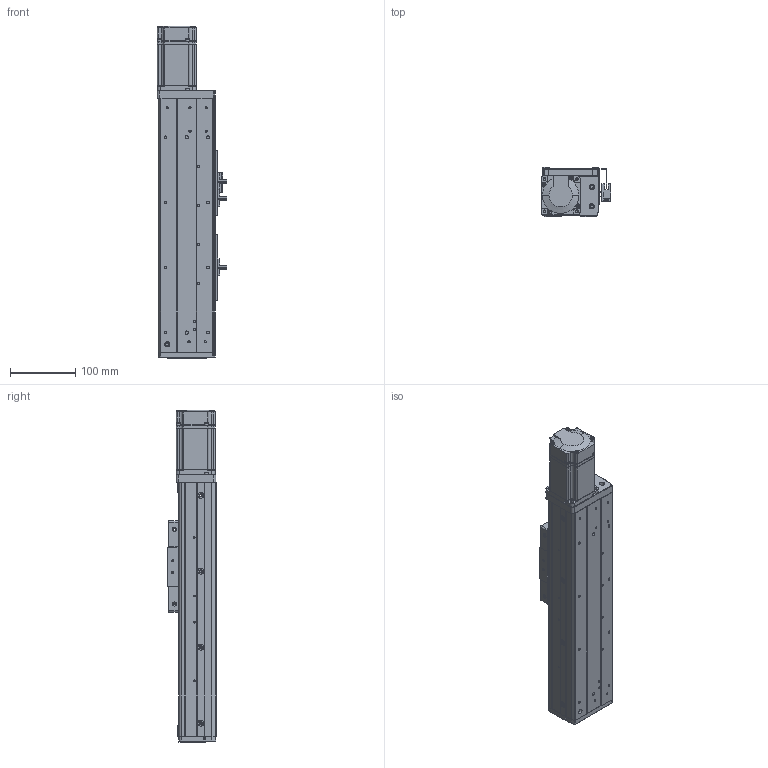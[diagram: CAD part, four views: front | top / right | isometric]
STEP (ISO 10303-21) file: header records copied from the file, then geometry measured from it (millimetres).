
FILE_DESCRIPTION (( 'STEP AP203' ), '1' );
FILE_NAME ('RY80F-L1610-300-MK.SLDASM_150.step', '2021-03-02T03:18:42', ( '盈信电脑' ), ( '东莞市道滘镇水果街19号' ), 'SwSTEP 2.0', 'SolidWorks 2012', '' );
FILE_SCHEMA (( 'CONFIG_CONTROL_DESIGN' ));
Products named in the file (16): RY80俋离覜茼え; RY80F-L1610-300-MK.SLDASM_150; 覜茼ん672; 蚥薯蝶紫輸; 滅袉蝶18-24; 侂狟200W萇儂; 1; RY80F-綴裔啣(臏璃ㄘ; 672嫖萇羲壽假蚾釱; RY80F-詩湍揤踡輸; RY80F-丝杆铝滑块(16丝杆）; RY80F-佪裝眻蟀ヶ裔啣(200W PCD70 M4); RY80F-滅鳥裔啣; RY80F-300-祥凄詩湍-MK_150; RY80F-丝杆直连型材底座_150; RY80F-300丝杆直连型材盖板_150
Assembly tree (21 placements, depth 3):
  RY80F-L1610-300-MK.SLDASM_150
    RY80F-丝杆直连型材底座_150
    RY80F-300丝杆直连型材盖板_150  x2
    RY80F-丝杆铝滑块(16丝杆）
    RY80F-滅鳥裔啣
    RY80F-300-祥凄詩湍-MK_150
    RY80F-佪裝眻蟀ヶ裔啣(200W PCD70 M4)
    RY80F-詩湍揤踡輸  x2
    RY80F-綴裔啣(臏璃ㄘ
    672嫖萇羲壽假蚾釱  x2
    蚥薯蝶紫輸
    滅袉蝶18-24  x2
    侂狟200W萇儂
      1
    RY80俋离覜茼え
    覜茼ん672  x3
Bounding box: 107.2 x 75 x 510 mm (x, y, z)
Volume: 1211386.8 mm3; surface area: 431342.1 mm2
Topology: 20 solids, 20 shells, 1632 faces, 4467 edges, 2910 vertices
Faces by surface type: plane 797, cylinder 708, cone 109, bspline 18
Entity records: 45887 total; most frequent: CARTESIAN_POINT 9315, DIRECTION 7329, ORIENTED_EDGE 7206, EDGE_CURVE 3603, AXIS2_PLACEMENT_3D 2570, VERTEX_POINT 2362, VECTOR 2189, LINE 2189
